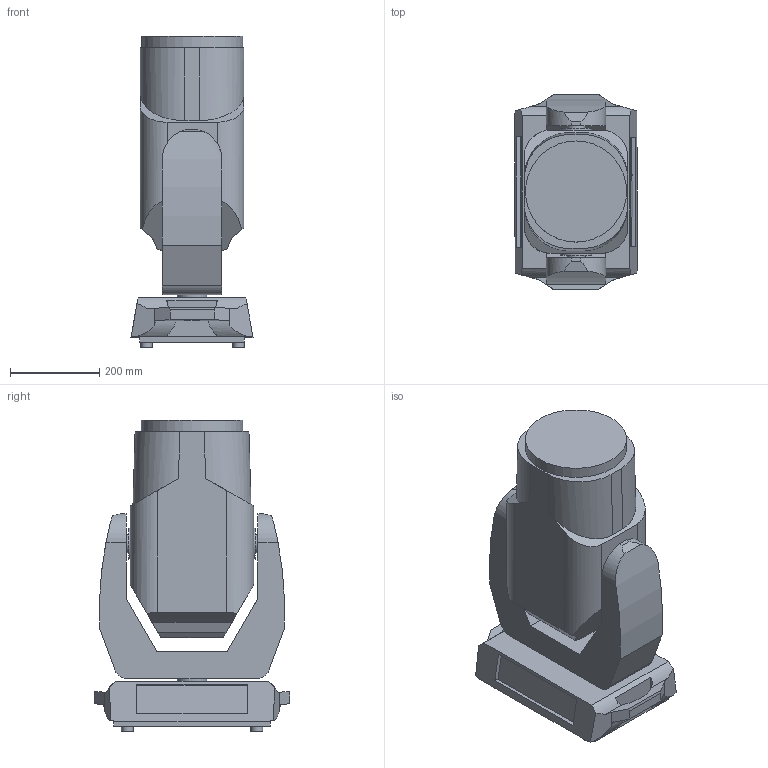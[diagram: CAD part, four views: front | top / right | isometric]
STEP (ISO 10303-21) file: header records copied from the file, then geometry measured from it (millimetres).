
FILE_DESCRIPTION(/* description */ ('Unknown'),/* implementation_level */ '2;1');
FILE_NAME(/* name */ '3D_RobinMMX Beam',/* time_stamp */ '2020-12-16T14:11:25+01:00',/* author */ ('Ing.Rostislav HĂˇba'),/* organization */ ('ROBE lighting'),/* preprocessor_version */ 'ST-DEVELOPER v16.7',/* originating_system */ 'Solid Edge',/* authorisation */ 'Unknown');
FILE_SCHEMA (('AUTOMOTIVE_DESIGN {1 0 10303 214 3 1 1}'));
Length unit declared in the file: millimetre
Products named in the file (4): 3D_RobinMMX Beam; Robin300Spot_Základna; MMX_Rameno; HlavaMMX Beam
Assembly tree (3 placements, depth 2):
  3D_RobinMMX Beam
    Robin300Spot_Základna
    MMX_Rameno
    HlavaMMX Beam
Bounding box: 273.35 x 437.25 x 696 mm (x, y, z)
Volume: 42836651.9 mm3; surface area: 1235694.2 mm2
Topology: 3 solids, 3 shells, 153 faces, 383 edges, 259 vertices
Faces by surface type: plane 105, cylinder 48
Full cylindrical faces by diameter (mm): 3.634 x1, 4 x3, 10 x8, 26 x4, 40 x2, 44.874 x1, 45.497 x1, 65.661 x1, 70 x2, 226.351 x1
Entity records: 4547 total; most frequent: CARTESIAN_POINT 837, DIRECTION 762, ORIENTED_EDGE 696, EDGE_CURVE 348, AXIS2_PLACEMENT_3D 269, VERTEX_POINT 248, LINE 224, VECTOR 224
